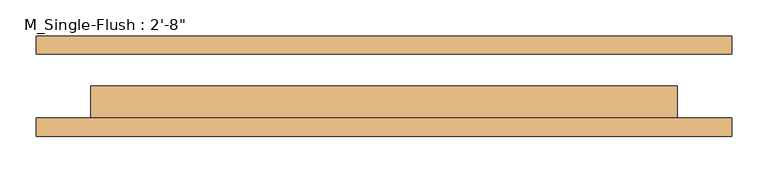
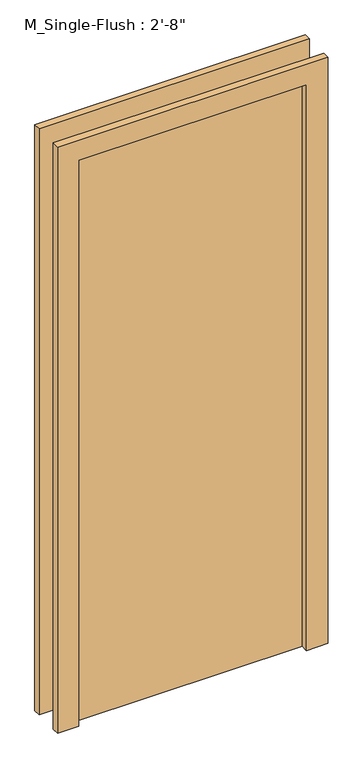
"""IFC4 building model written with IfcOpenShell, lengths in millimetres: door geometry."""

import ifcopenshell
import ifcopenshell.guid

model = None  # the IFC model being written
_history = None  # IfcOwnerHistory: only IFC2X3 demands one
_inside = {}  # id of a spatial element -> (the spatial element, [elements in it])
_under = {}  # id of a project, library or spatial element -> (it, [spatial elements below it])
_declared = {}  # id of a project -> (the project, [libraries it declares])
_typed = {}  # id of a type object -> (the type object, [elements of that type])
_made_of = {}  # id of a material, layer set ... -> (it, [elements and type objects made of it])


def new_model(schema):
    """Start an empty IFC model of exactly this schema.

    Asked for "IFC4X3", IfcOpenShell would pick the latest addendum, in which some entities
    have other attributes; the version numbers below select the first issue.
    IFC2X3 requires an IfcOwnerHistory on every rooted entity: one is made here for all.
    """
    global model, _history
    if schema == "IFC4X3":
        model = ifcopenshell.file(schema_version=(4, 3, 0, 0))
    else:
        model = ifcopenshell.file(schema=schema)
    _inside.clear()
    _under.clear()
    _declared.clear()
    _typed.clear()
    _made_of.clear()
    _history = None
    if model.schema == "IFC2X3":
        org = make("IfcOrganization", Name="unknown")
        user = make(
            "IfcPersonAndOrganization",
            ThePerson=make("IfcPerson", FamilyName="unknown"),
            TheOrganization=org,
        )
        app = make(
            "IfcApplication",
            ApplicationDeveloper=org,
            Version="unknown",
            ApplicationFullName="unknown",
            ApplicationIdentifier="unknown",
        )
        _history = make(
            "IfcOwnerHistory",
            OwningUser=user,
            OwningApplication=app,
            ChangeAction="ADDED",
            CreationDate=0,
        )
    return model


def make(cls, **values):
    """One entity of the class cls with the attributes given. An attribute that is None is left unset."""
    return model.create_entity(
        cls, **{name: value for name, value in values.items() if value is not None}
    )


def rooted(cls, **values):
    """An entity with a GlobalId (a new one), such as an element, a storey or a relation."""
    return make(cls, GlobalId=ifcopenshell.guid.new(), OwnerHistory=_history, **values)


def si_unit(unit_type, name, prefix=None):
    """IfcSIUnit, for example si_unit("LENGTHUNIT", "METRE", prefix="MILLI")."""
    return make("IfcSIUnit", UnitType=unit_type, Prefix=prefix, Name=name)


def assignment(units):
    """IfcUnitAssignment: the units of a project."""
    return None if units is None else make("IfcUnitAssignment", Units=units)


def point(xyz):
    """IfcCartesianPoint."""
    return None if xyz is None else make("IfcCartesianPoint", Coordinates=xyz)


def direction(xyz):
    """IfcDirection."""
    return None if xyz is None else make("IfcDirection", DirectionRatios=xyz)


def frame(location, z_axis=None, x_axis=None):
    """IfcAxis2Placement3D, a coordinate frame: its origin and axes. An axis left out is left unset."""
    return make(
        "IfcAxis2Placement3D",
        Location=point(location),
        Axis=direction(z_axis),
        RefDirection=direction(x_axis),
    )


def origin():
    """The frame at (0, 0, 0) with its axes left unset."""
    return frame((0.0, 0.0, 0.0))


def origin_with_axes():
    """The frame at (0, 0, 0) with the z axis (0, 0, 1) and the x axis (1, 0, 0) written out."""
    return frame((0.0, 0.0, 0.0), z_axis=(0.0, 0.0, 1.0), x_axis=(1.0, 0.0, 0.0))


def place(relative_to, where):
    """IfcLocalPlacement: puts the frame where relative to a parent placement (None: the world)."""
    return make(
        "IfcLocalPlacement", PlacementRelTo=relative_to, RelativePlacement=where
    )


def context(
    kind, dimensions, precision=None, world=None, true_north=None, identifier=None
):
    """IfcGeometricRepresentationContext, for example the 3D "Model" context."""
    return make(
        "IfcGeometricRepresentationContext",
        ContextIdentifier=identifier,
        ContextType=kind,
        CoordinateSpaceDimension=dimensions,
        Precision=precision,
        WorldCoordinateSystem=world,
        TrueNorth=true_north,
    )


def project(units=None, contexts=None):
    """IfcProject with its units and contexts."""
    return rooted(
        "IfcProject",
        Name="project",
        RepresentationContexts=contexts,
        UnitsInContext=assignment(units),
    )


def spatial(cls, under=None, at=None, **own):
    """A site, building, storey or space (cls), placed at a placement, below another one or the project."""
    s = rooted(cls, ObjectPlacement=at, **own)
    if under is not None:
        _under.setdefault(under.id(), (under, []))[1].append(s)
    return s


def polyline(points):
    """IfcPolyline through the points."""
    return make("IfcPolyline", Points=[point(p) for p in points])


def outline(outer, holes=None, kind="AREA"):
    """IfcArbitraryClosedProfileDef: a profile drawn as a closed curve; with holes, ...WithVoids."""
    if holes is None:
        return make("IfcArbitraryClosedProfileDef", ProfileType=kind, OuterCurve=outer)
    return make(
        "IfcArbitraryProfileDefWithVoids",
        ProfileType=kind,
        OuterCurve=outer,
        InnerCurves=holes,
    )


def extrude(swept, where, along, depth):
    """IfcExtrudedAreaSolid: the profile swept, set in the frame where, extruded along a direction by depth."""
    return make(
        "IfcExtrudedAreaSolid",
        SweptArea=swept,
        Position=where,
        ExtrudedDirection=direction(along),
        Depth=depth,
    )


def shape(context_of_items, identifier, shape_type, items):
    """IfcShapeRepresentation: the items that make up one representation, for example the "Body"."""
    return make(
        "IfcShapeRepresentation",
        ContextOfItems=context_of_items,
        RepresentationIdentifier=identifier,
        RepresentationType=shape_type,
        Items=items,
    )


def source(mapping_origin, context_of_items, identifier, shape_type, items):
    """IfcRepresentationMap: a shape defined once, which mapped items show again and again."""
    return make(
        "IfcRepresentationMap",
        MappingOrigin=mapping_origin,
        MappedRepresentation=shape(context_of_items, identifier, shape_type, items),
    )


def transform(
    local_origin,
    x_axis=None,
    y_axis=None,
    z_axis=None,
    scale=None,
    scale2=None,
    scale3=None,
    uniform=True,
):
    """IfcCartesianTransformationOperator3D, or its non-uniform kind. x_axis, y_axis, z_axis: its Axis1, 2, 3."""
    if uniform:
        return make(
            "IfcCartesianTransformationOperator3D",
            Axis1=direction(x_axis),
            Axis2=direction(y_axis),
            LocalOrigin=point(local_origin),
            Scale=scale,
            Axis3=direction(z_axis),
        )
    return make(
        "IfcCartesianTransformationOperator3DnonUniform",
        Axis1=direction(x_axis),
        Axis2=direction(y_axis),
        LocalOrigin=point(local_origin),
        Scale=scale,
        Axis3=direction(z_axis),
        Scale2=scale2,
        Scale3=scale3,
    )


def mapped(mapping_source, mapping_target):
    """IfcMappedItem: shows the shape of a source again, moved by a transform."""
    return make(
        "IfcMappedItem", MappingSource=mapping_source, MappingTarget=mapping_target
    )


def made_of(thing, what):
    """Note that an element or type object is made of a material, layer set ...; save() writes the relation."""
    if what is not None:
        _made_of.setdefault(what.id(), (what, []))[1].append(thing)
    return thing


def element(
    cls,
    number,
    at=None,
    inside=None,
    cuts=None,
    type_object=None,
    material=None,
    context=None,
    identifier="Body",
    shape_type=None,
    held_by="IfcProductDefinitionShape",
    body=None,
    shapes=None,
    **own,
):
    """One element of the class cls, such as IfcWall. Its Tag is "e" and its number.

    at: its placement. inside: the storey or other place that contains it. cuts: it is an
    opening in that element (IfcRelVoidsElement). A single representation is given by context,
    identifier, shape_type and body (its items); several are given by shapes. held_by: the class
    of the entity that holds the representations. save() writes the other relations.
    """
    e = rooted(cls, Tag="e%d" % number, ObjectPlacement=at, **own)
    if body is not None:
        shapes = [shape(context, identifier, shape_type, body)]
    if shapes is not None:
        e.Representation = make(held_by, Representations=shapes)
    if inside is not None:
        _inside.setdefault(inside.id(), (inside, []))[1].append(e)
    if cuts is not None:
        rooted(
            "IfcRelVoidsElement", RelatingBuildingElement=cuts, RelatedOpeningElement=e
        )
    if type_object is not None:
        _typed.setdefault(type_object.id(), (type_object, []))[1].append(e)
    return made_of(e, material)


def aggregate(whole, parts):
    """IfcRelAggregates: a whole, such as a stair, and the parts it consists of."""
    return rooted("IfcRelAggregates", RelatingObject=whole, RelatedObjects=parts)


def save(model, path):
    """Write the relations noted so far, then the file.

    IfcRelAggregates (storeys below a building ...), IfcRelContainedInSpatialStructure (elements
    in a storey), IfcRelDefinesByType, IfcRelAssociatesMaterial and IfcRelDeclares: one each for
    every whole, place, type object, material and project.
    """
    for whole, parts in _under.values():
        aggregate(whole, parts)
    for where, things in _inside.values():
        rooted(
            "IfcRelContainedInSpatialStructure",
            RelatedElements=things,
            RelatingStructure=where,
        )
    for kind, things in _typed.values():
        rooted("IfcRelDefinesByType", RelatedObjects=things, RelatingType=kind)
    for what, things in _made_of.values():
        rooted("IfcRelAssociatesMaterial", RelatedObjects=things, RelatingMaterial=what)
    for by, libraries in _declared.values():
        rooted("IfcRelDeclares", RelatingContext=by, RelatedDefinitions=libraries)
    model.write(path)


def door_3875bb2d(model_context):
    return source(origin(), model_context, "Body", "SweptSolid", [
        extrude(outline(polyline([(2209.8, -482.6), (0.0, -482.6), (0.0, -406.4), (2133.6, -406.4), (2133.6, 406.4), (0.0, 406.4), (0.0, 482.6), (2209.8, 482.6), (2209.8, -482.6)])), frame((0.0, -69.85, 0.0), z_axis=(0.0, 1.0, 0.0), x_axis=(0.0, 0.0, 1.0)), (0.0, 0.0, 1.0), 25.4),
        extrude(outline(polyline([(2209.8, 482.6), (2209.8, -482.6), (0.0, -482.6), (0.0, -406.4), (2133.6, -406.4), (2133.6, 406.4), (0.0, 406.4), (0.0, 482.6), (2209.8, 482.6)])), frame((0.0, 44.45, 0.0), z_axis=(0.0, 1.0, 0.0), x_axis=(0.0, 0.0, 1.0)), (0.0, 0.0, 1.0), 25.4),
        extrude(outline(polyline([(406.4, 0.0), (406.4, -44.45), (-406.4, -44.45), (-406.4, 0.0), (406.4, 0.0)])), origin_with_axes(), (0.0, 0.0, 1.0), 2133.6),
    ])


if __name__ == "__main__":
    model = new_model("IFC4")
    model_context = context("Model", 3, world=origin())
    ifc_project = project(units=[si_unit("LENGTHUNIT", "METRE", prefix="MILLI")], contexts=[model_context])
    site = spatial("IfcSite", under=ifc_project)
    building = spatial("IfcBuilding", under=site)
    placement = place(None, origin())
    door_shape = door_3875bb2d(model_context)
    element("IfcDoor", 1, ObjectType="M_Single-Flush : 2'-8\"", at=placement, inside=building, context=model_context, shape_type="MappedRepresentation", body=[
        mapped(door_shape, transform((0.0, 0.0, 0.0), x_axis=(1.0, 0.0, 0.0), y_axis=(0.0, 1.0, 0.0), z_axis=(0.0, 0.0, 1.0))),
    ])
    save(model, "model.ifc")
